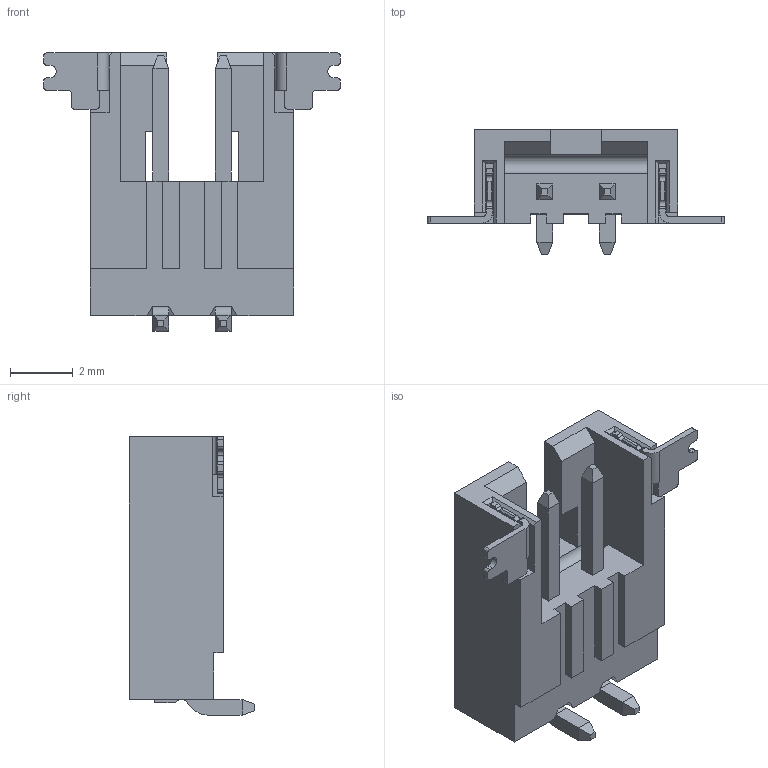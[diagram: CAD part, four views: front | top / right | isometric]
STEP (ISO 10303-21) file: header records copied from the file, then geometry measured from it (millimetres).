
FILE_DESCRIPTION((''),'2;1');
FILE_NAME('S-50302-002XX-004','2012-01-12T',('12236126'),(''),'PRO/ENGINEER BY PARAMETRIC TECHNOLOGY CORPORATION, 2009360','PRO/ENGINEER BY PARAMETRIC TECHNOLOGY CORPORATION, 2009360','');
FILE_SCHEMA(('CONFIG_CONTROL_DESIGN'));
Length unit declared in the file: millimetre
Products named in the file (1): S-50302-002XX-004
Bounding box: 9.48 x 4 x 8.9 mm (x, y, z)
Volume: 98 mm3; surface area: 366.6 mm2
Topology: 1 solids, 1 shells, 290 faces, 898 edges, 572 vertices
Faces by surface type: plane 197, cylinder 93
Entity records: 10028 total; most frequent: ORIENTED_EDGE 1796, CARTESIAN_POINT 1784, DIRECTION 1658, EDGE_CURVE 898, VECTOR 702, LINE 702, VERTEX_POINT 572, AXIS2_PLACEMENT_3D 478
